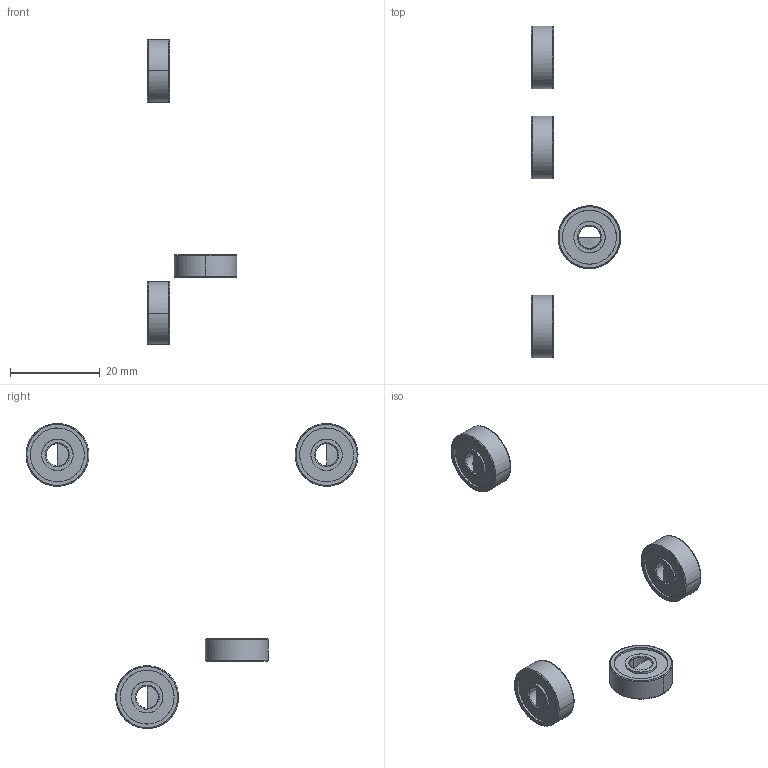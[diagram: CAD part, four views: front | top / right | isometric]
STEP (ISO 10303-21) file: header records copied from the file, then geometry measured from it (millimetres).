
FILE_DESCRIPTION(/* description */ (''),/* implementation_level */ '2;1');
FILE_NAME(/* name */ '5.y-cart#5.2#B605ZZ',/* time_stamp */ '2014-12-01T20:13:14+01:00',/* author */ (''),/* organization */ (''),/* preprocessor_version */ 'ST-DEVELOPER v14',/* originating_system */ '',/* authorisation */ '');
FILE_SCHEMA (('AUTOMOTIVE_DESIGN'));
Length unit declared in the file: millimetre
Products named in the file (2): Document; ball bearing 5x14x5mm
Assembly tree (4 placements, depth 2):
  Document
    ball bearing 5x14x5mm  x4
Bounding box: 20 x 74 x 68 mm (x, y, z)
Surface area: 2468.6 mm2 (no closed solid volume)
Topology: 0 solids, 104 shells, 104 faces, 368 edges, 364 vertices
Faces by surface type: bspline 80, plane 24
Entity records: 2752 total; most frequent: CARTESIAN_POINT 1641, B_SPLINE_CURVE_WITH_KNOTS 103, ORIENTED_EDGE 91, PCURVE 91, DEFINITIONAL_REPRESENTATION 91, SURFACE_CURVE 91, EDGE_CURVE 91, VERTEX_POINT 91
